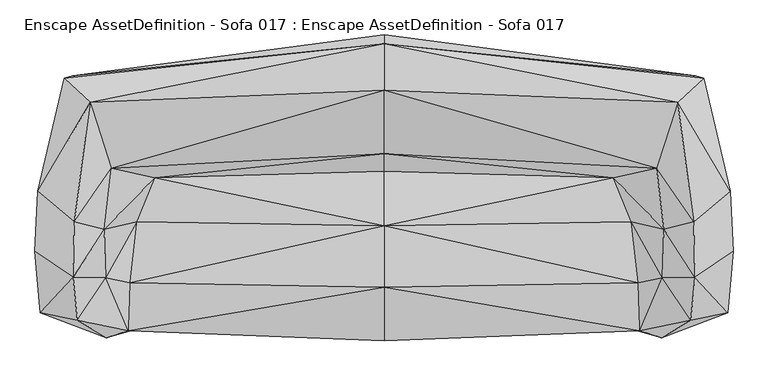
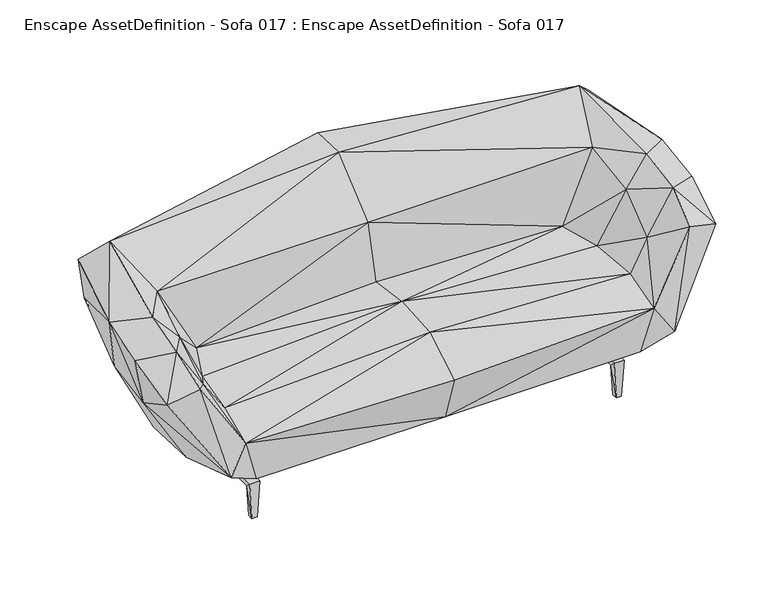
"""IFC4 building model written with IfcOpenShell, lengths in millimetres: geographic element geometry, Enscape AssetDefinition - Sofa 017 : Enscape AssetDefinition - Sofa 017."""

from ifc_helpers import new_model, si_unit, origin, place, context, project, spatial, triangles, source, transform, mapped, element, save


def enscape_assetdefinition_sofa_017_enscape_assetdefinition_a1c17dae(model_context):
    return source(origin(), model_context, "Body", "Tessellation", [
        triangles([(762.2792707, -236.2303664, 188.3322726), (709.1350582, -373.8719467, 206.7953353), (0.0, -413.892578, 367.3490164), (-709.1350582, -373.8719467, 206.7953353), (0.0, -356.449173, 189.914607), (0.0, -256.8368847, 460.318378), (748.2492405, -242.4658688, 417.6899843), (819.800033, -227.9533643, 526.1698454), (753.4371506, -384.5961831, 367.3356088), (728.0824482, -63.7006994, 425.6858989), (823.7090967, -85.4235649, 625.0664978), (903.5907761, -353.6632965, 613.3485357), (916.0253368, -226.5526141, 683.6851582), (817.9242754, -404.7379406, 267.9925265), (1028.3662994, -150.3090121, 643.8738527), (1012.1292091, -332.045212, 574.4640269), (1019.7960377, 26.3538647, 683.4447659), (865.8797785, 289.1794782, 787.2329075), (911.8837292, -63.8731043, 720.8437185), (802.7565239, 94.5961518, 687.3224361), (996.8545601, -149.9492048, 468.1665908), (941.8158411, 359.2329057, 700.5129101), (879.7072048, -221.3923549, 257.9179779), (1013.2034168, 5.6655171, 524.5929431), (741.5665089, 230.5405792, 211.5857224), (894.304497, -41.148097, 272.1382945), (0.0, 20.4150193, 173.1149965), (780.6693546, -59.1906549, 192.2568695), (0.0, 479.6153469, 467.5991472), (0.0, 303.0217837, 205.0917692), (842.7996466, 314.3287425, 336.734497), (916.3753155, 366.0542916, 538.2772822), (-741.5665089, 230.5405792, 211.5857224), (-780.6693546, -59.1906549, 192.2568695), (0.0, -253.7884153, 174.4384985), (-842.7996466, 314.3287425, 336.734497), (0.0, 487.0192554, 635.2426208), (-916.3753155, 366.0542916, 538.2772822), (0.0, 460.5077559, 802.4335785), (0.0, 324.3281685, 808.96661), (-802.7565239, 94.5961518, 687.3224361), (-911.8837292, -63.8731043, 720.8437185), (-865.8797785, 289.1794782, 787.2329075), (-941.8158411, 359.2329057, 700.5129101), (-1019.7960377, 26.3538647, 683.4447659), (-1013.2034168, 5.6655171, 524.5929431), (-1028.3662994, -150.3090121, 643.8738527), (-916.0253368, -226.5526141, 683.6851582), (-817.9242754, -404.7379406, 267.9925265), (-996.8545601, -149.9492048, 468.1665908), (-894.304497, -41.148097, 272.1382945), (-879.7072048, -221.3923549, 257.9179779), (-903.5907761, -353.6632965, 613.3485357), (-1012.1292091, -332.045212, 574.4640269), (-762.2792707, -236.2303664, 188.3322726), (-819.800033, -227.9533643, 526.1698454), (-753.4371506, -384.5961831, 367.3356088), (-748.2492405, -242.4658688, 417.6899843), (-823.7090967, -85.4235649, 625.0664978), (-728.0824482, -63.7006994, 425.6858989), (0.0, -75.3369577, 471.5732142), (0.0, 136.2261053, 649.93591), (-675.1945427, 65.7861235, 440.9768623), (0.0, 85.6045313, 448.3333537), (675.1945427, 65.7861235, 440.9768623), (660.8935987, -302.3796354, -0.1822655), (651.9249601, -284.737907, 119.3734458), (651.9249601, -304.9417065, 139.2094171), (689.6980179, -284.737907, 119.3734458), (660.8935987, -282.5470887, 0.1822655), (651.9251781, 309.6408019, 139.209408), (660.8937441, 280.300914, 0.6755363), (651.9251781, 288.4044891, 119.3734639), (680.72967, 280.300914, 0.6755363), (689.6981632, 288.4044891, 119.3734639), (689.6980179, -304.9417065, 139.2094171), (680.7295246, -302.3796354, -0.1822655), (680.7295246, -282.5470887, 0.1822655), (689.6981632, 309.6408019, 139.209408), (680.72967, 300.0907671, -0.6755363), (660.8937441, 300.0907671, -0.6755363), (-683.6934425, -302.3796354, -0.1822655), (-683.6934425, -282.5470887, 0.1822655), (-692.6620811, -304.9417065, 139.2094171), (-692.6620811, -284.737907, 119.3734458), (-663.8575167, -282.5470887, 0.1822655), (-663.8575167, -302.3796354, -0.1822655), (-663.8575167, 280.300914, 0.6755363), (-692.6619358, 288.4044891, 119.3734639), (-692.6619358, 309.6408019, 139.209408), (-654.8890234, -304.9417065, 139.2094171), (-654.8890234, -284.737907, 119.3734458), (-654.8888781, 309.6408019, 139.209408), (-654.8888781, 288.4044891, 119.3734639), (-663.8575167, 300.0907671, -0.6755363), (-683.6934425, 280.300914, 0.6755363), (-683.6934425, 300.0907671, -0.6755363)], [[88, 96, 97], [97, 95, 88], [94, 88, 95], [93, 95, 97], [95, 93, 94], [92, 94, 93], [93, 91, 92], [86, 92, 91], [91, 87, 86], [97, 90, 93], [90, 97, 96], [91, 93, 90], [89, 96, 88], [88, 94, 89], [96, 89, 90], [90, 84, 91], [84, 90, 89], [87, 91, 84], [86, 87, 82], [84, 82, 87], [82, 83, 86], [92, 86, 83], [85, 89, 94], [94, 92, 85], [89, 85, 84], [83, 85, 92], [82, 84, 85], [85, 83, 82], [74, 72, 81], [81, 80, 74], [75, 74, 80], [79, 80, 81], [80, 79, 75], [69, 75, 79], [79, 76, 69], [78, 69, 76], [76, 77, 78], [81, 71, 79], [71, 81, 72], [76, 79, 71], [73, 72, 74], [74, 75, 73], [72, 73, 71], [71, 68, 76], [68, 71, 73], [77, 76, 68], [78, 77, 66], [68, 66, 77], [66, 70, 78], [69, 78, 70], [67, 73, 75], [75, 69, 67], [73, 67, 68], [70, 67, 69], [66, 68, 67], [67, 70, 66], [34, 35, 55], [55, 51, 34], [4, 55, 35], [62, 65, 20], [62, 64, 65], [65, 64, 61], [62, 41, 63], [61, 64, 63], [62, 63, 64], [63, 41, 59], [63, 60, 61], [63, 59, 60], [58, 61, 60], [48, 56, 59], [60, 59, 56], [60, 56, 58], [58, 56, 57], [53, 57, 56], [56, 48, 53], [54, 53, 48], [49, 57, 53], [57, 49, 4], [55, 4, 49], [49, 53, 54], [55, 52, 51], [49, 52, 55], [46, 51, 52], [51, 46, 38], [46, 52, 50], [50, 49, 54], [50, 52, 49], [54, 47, 50], [48, 47, 54], [47, 48, 42], [42, 59, 41], [48, 59, 42], [45, 46, 50], [38, 46, 45], [45, 50, 47], [47, 42, 45], [38, 45, 44], [45, 42, 43], [42, 41, 43], [45, 43, 44], [40, 43, 41], [40, 62, 20], [41, 62, 40], [18, 40, 20], [43, 40, 39], [18, 22, 39], [38, 44, 39], [43, 39, 44], [18, 39, 40], [39, 22, 32], [39, 37, 38], [37, 39, 32], [38, 36, 51], [36, 38, 37], [33, 34, 51], [51, 36, 33], [34, 27, 35], [27, 34, 33], [33, 30, 27], [37, 29, 36], [33, 36, 29], [33, 29, 30], [37, 32, 31], [29, 37, 31], [25, 30, 29], [30, 25, 27], [25, 29, 31], [25, 28, 27], [28, 35, 27], [28, 1, 35], [1, 28, 26], [25, 31, 26], [28, 25, 26], [31, 32, 26], [32, 24, 26], [24, 23, 26], [1, 26, 23], [1, 23, 14], [24, 21, 23], [21, 14, 23], [17, 22, 18], [32, 22, 17], [17, 21, 24], [32, 17, 24], [19, 18, 20], [17, 18, 19], [17, 15, 21], [15, 17, 19], [16, 14, 21], [15, 16, 21], [14, 16, 12], [14, 12, 9], [16, 15, 13], [15, 19, 13], [12, 16, 13], [13, 19, 11], [19, 20, 11], [65, 11, 20], [65, 10, 11], [10, 65, 61], [12, 13, 8], [13, 11, 8], [10, 8, 11], [9, 12, 8], [10, 7, 8], [7, 10, 61], [7, 9, 8], [58, 6, 61], [9, 7, 6], [6, 58, 57], [7, 61, 6], [57, 3, 6], [3, 9, 6], [5, 3, 57], [35, 5, 4], [5, 57, 4], [5, 9, 3], [2, 5, 35], [5, 2, 9], [2, 14, 9], [1, 2, 35], [2, 1, 14]]),
    ])


if __name__ == "__main__":
    model = new_model("IFC4")
    model_context = context("Model", 3, world=origin())
    ifc_project = project(units=[si_unit("LENGTHUNIT", "METRE", prefix="MILLI")], contexts=[model_context])
    site = spatial("IfcSite", under=ifc_project)
    building = spatial("IfcBuilding", under=site)
    placement = place(None, origin())
    enscape_assetdefinition_sofa_017_enscape_assetdefinition_shape = enscape_assetdefinition_sofa_017_enscape_assetdefinition_a1c17dae(model_context)
    element("IfcGeographicElement", 1, ObjectType="Enscape AssetDefinition - Sofa 017 : Enscape AssetDefinition - Sofa 017", at=placement, inside=building, context=model_context, shape_type="MappedRepresentation", body=[
        mapped(enscape_assetdefinition_sofa_017_enscape_assetdefinition_shape, transform((0.0, 0.0, 0.0), x_axis=(1.0, 0.0, 0.0), y_axis=(0.0, 1.0, 0.0), z_axis=(0.0, 0.0, 1.0))),
    ])
    save(model, "model.ifc")
